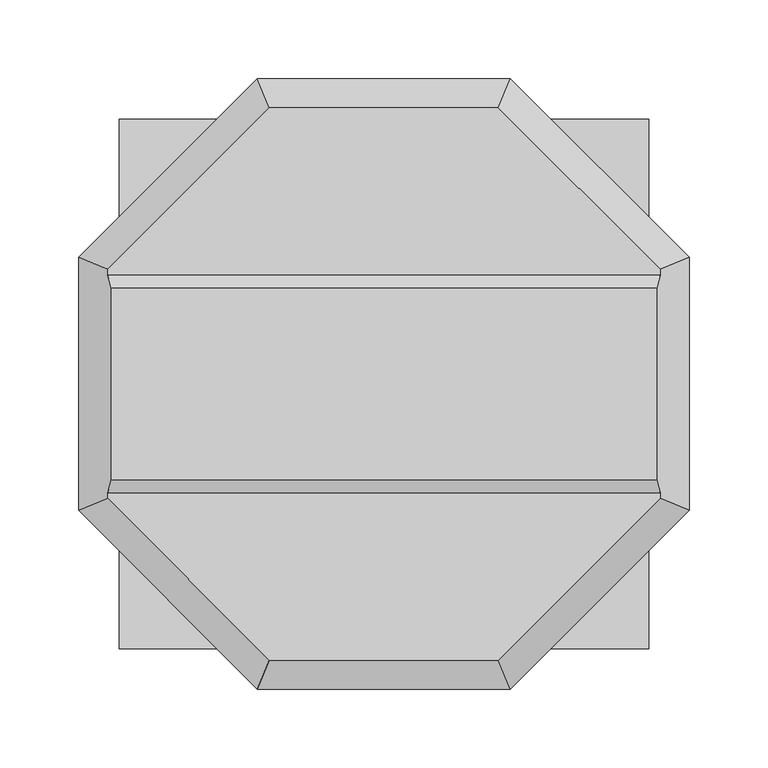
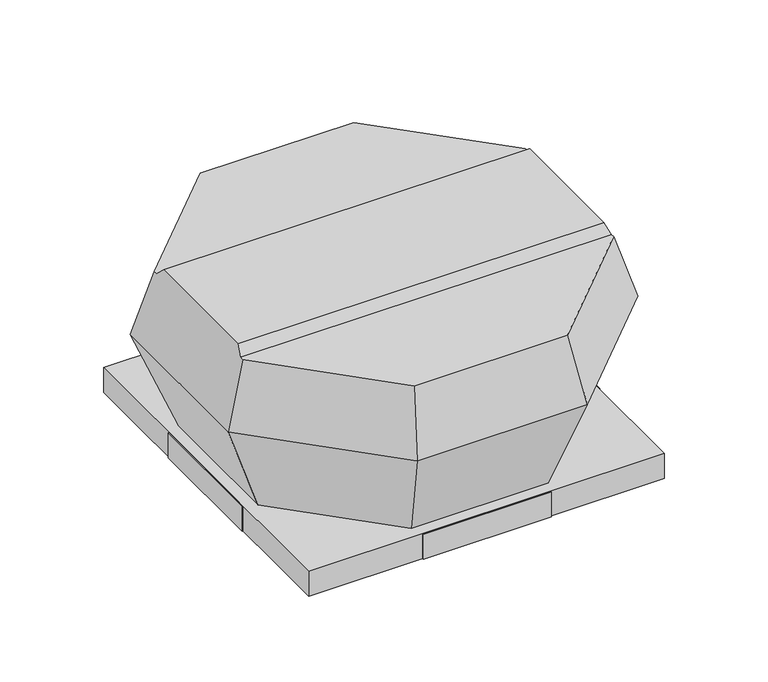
"""IFC4 building model written with IfcOpenShell, lengths in millimetres: unitary equipment geometry, VE-Wentylator-ParaForma-Harmann-VIVER-Wywiewny : 2-225/900S."""

from ifc_helpers import new_model, si_unit, origin, place, context, project, spatial, faceted_brep, source, transform, mapped, element, save


def unitary_equipment_795b335b(model_context):
    return source(origin(), model_context, "Body", "Brep", [
        faceted_brep([(173.439029, -61.05, 166.2), (173.439029, 61.05, 166.2), (-173.439029, 61.05, 166.2), (-173.439029, -61.05, 166.2), (175.875458, 69.15, 158.1), (-175.875458, 69.15, 158.1), (175.875458, -69.15, 158.1), (-175.875458, -69.15, 158.1), (72.85, -175.875458, 158.1), (175.875458, -72.85, 158.1), (-175.875458, -72.85, 158.1), (-72.85, -175.875458, 158.1), (175.875458, 72.85, 158.1), (72.85, 175.875458, 158.1), (-72.85, 175.875458, 158.1), (-175.875458, 72.85, 158.1), (80.5, -194.3441918, 96.7), (194.3441918, -80.5, 96.7), (194.3441918, 80.5, 96.7), (80.5, 194.3441918, 96.7), (-80.5, 194.3441918, 96.7), (-194.3441918, 80.5, 96.7), (-194.3441918, -80.5, 96.7), (-80.5, -194.3441918, 96.7), (65.1, -157.1653029, 1.0), (-65.1, -157.1653029, 1.0), (-157.1653029, -65.1, 1.0), (-157.1653029, 65.1, 1.0), (-65.1, 157.1653029, 1.0), (65.1, 157.1653029, 1.0), (157.1653029, 65.1, 1.0), (157.1653029, -65.1, 1.0)], [[[0, 1, 2, 3]], [[1, 4, 5, 2]], [[6, 0, 3, 7]], [[8, 9, 6, 7, 10, 11]], [[12, 13, 14, 15, 5, 4]], [[9, 8, 16, 17]], [[9, 17, 18, 12, 4, 1, 0, 6]], [[13, 12, 18, 19]], [[14, 13, 19, 20]], [[15, 14, 20, 21]], [[15, 21, 22, 10, 7, 3, 2, 5]], [[11, 10, 22, 23]], [[8, 11, 23, 16]], [[24, 25, 26, 27, 28, 29, 30, 31]], [[24, 31, 17, 16]], [[31, 30, 18, 17]], [[30, 29, 19, 18]], [[29, 28, 20, 19]], [[28, 27, 21, 20]], [[27, 26, 22, 21]], [[26, 25, 23, 22]], [[25, 24, 16, 23]]]),
        faceted_brep([(167.55, 167.55, -24.0), (167.55, 167.55, 0.0), (-167.55, 167.55, 0.0), (-167.55, 167.55, -24.0), (168.55, 168.55, 1.0), (168.55, 168.55, -24.0), (-168.55, 168.55, -24.0), (-168.55, 168.55, 1.0), (-167.55, -167.55, 0.0), (-167.55, -167.55, -24.0), (-168.55, -168.55, -24.0), (-168.55, -168.55, 1.0), (167.55, -167.55, 0.0), (167.55, -167.55, -24.0), (168.55, -168.55, -24.0), (168.55, -168.55, 1.0)], [[[0, 1, 2, 3]], [[4, 5, 6, 7]], [[3, 2, 8, 9]], [[7, 6, 10, 11]], [[9, 8, 12, 13]], [[11, 10, 14, 15]], [[13, 12, 1, 0]], [[5, 14, 10, 6], [3, 9, 13, 0]], [[15, 14, 5, 4]], [[7, 11, 15, 4]], [[1, 12, 8, 2]]]),
        faceted_brep([(-168.5, -60.8, -24.0), (-169.5, -60.8, -24.0), (-169.5, 60.8, -24.0), (-168.5, 60.8, -24.0), (-168.5, -60.8, 1.0), (-168.5, 60.8, 1.0), (-169.5, 60.8, 1.0), (-169.5, -60.8, 1.0)], [[[0, 1, 2, 3]], [[4, 5, 6, 7]], [[1, 0, 4, 7]], [[2, 1, 7, 6]], [[3, 2, 6, 5]], [[0, 3, 5, 4]]]),
        faceted_brep([(169.5, -60.8, -24.0), (168.5, -60.8, -24.0), (168.5, 60.8, -24.0), (169.5, 60.8, -24.0), (169.5, 60.8, 1.0), (168.5, 60.8, 1.0), (168.5, 5.0, 1.0), (168.5, -5.0, 1.0), (168.5, -60.8, 1.0), (169.5, -60.8, 1.0), (169.5, -5.0, 1.0), (169.5, 5.0, 1.0)], [[[0, 1, 2, 3]], [[4, 5, 6, 7, 8, 9, 10, 11]], [[1, 0, 9, 8]], [[2, 1, 8, 7, 6, 5]], [[3, 2, 5, 4]], [[0, 3, 4, 11, 10, 9]]]),
        faceted_brep([(60.8, 168.5, -24.0), (-60.8, 168.5, -24.0), (-60.8, 169.5, -24.0), (60.8, 169.5, -24.0), (60.8, 168.5, 1.0), (60.8, 169.5, 1.0), (-60.8, 169.5, 1.0), (-60.8, 168.5, 1.0)], [[[0, 1, 2, 3]], [[4, 5, 6, 7]], [[1, 0, 4, 7]], [[2, 1, 7, 6]], [[3, 2, 6, 5]], [[0, 3, 5, 4]]]),
        faceted_brep([(60.8, -169.5, -24.0), (-60.8, -169.5, -24.0), (-60.8, -168.5, -24.0), (60.8, -168.5, -24.0), (60.8, -169.5, 1.0), (60.8, -168.5, 1.0), (-60.8, -168.5, 1.0), (-60.8, -169.5, 1.0)], [[[0, 1, 2, 3]], [[4, 5, 6, 7]], [[1, 0, 4, 7]], [[2, 1, 7, 6]], [[3, 2, 6, 5]], [[0, 3, 5, 4]]]),
    ])


if __name__ == "__main__":
    model = new_model("IFC4")
    model_context = context("Model", 3, world=origin())
    ifc_project = project(units=[si_unit("LENGTHUNIT", "METRE", prefix="MILLI")], contexts=[model_context])
    site = spatial("IfcSite", under=ifc_project)
    building = spatial("IfcBuilding", under=site)
    placement = place(None, origin())
    unitary_equipment_shape = unitary_equipment_795b335b(model_context)
    element("IfcUnitaryEquipment", 1, ObjectType="VE-Wentylator-ParaForma-Harmann-VIVER-Wywiewny : 2-225/900S", at=placement, inside=building, context=model_context, shape_type="MappedRepresentation", body=[
        mapped(unitary_equipment_shape, transform((0.0, 0.0, 0.0), x_axis=(1.0, 0.0, 0.0), y_axis=(0.0, 1.0, 0.0), z_axis=(0.0, 0.0, 1.0))),
    ])
    save(model, "model.ifc")
